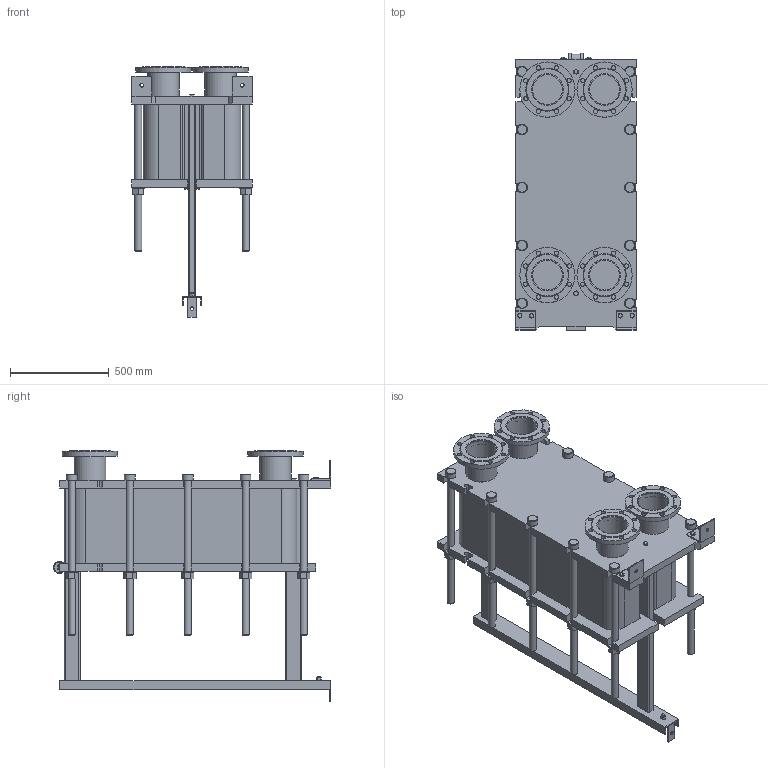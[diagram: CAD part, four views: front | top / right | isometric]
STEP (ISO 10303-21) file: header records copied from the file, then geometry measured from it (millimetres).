
FILE_DESCRIPTION(/* description */ (''),/* implementation_level */ '2;1');
FILE_NAME(/* name */ 'C:\Users\zhuro\Desktop\ENCO\TO\ЭН-041\ЭН-0,5-041-111-1.stp',/* time_stamp */ '2022-06-06T10:58:58+03:00',/* author */ ('zhuro'),/* organization */ (''),/* preprocessor_version */ 'ST-DEVELOPER v18.1',/* originating_system */ 'Autodesk Inventor 2022',/* authorisation */ '');
FILE_SCHEMA (('AUTOMOTIVE_DESIGN { 1 0 10303 214 3 1 1 }'));
Length unit declared in the file: millimetre
Products named in the file (1): ЭН-0,5-041-111-1
Bounding box: 610 x 1406.5 x 1272.5 mm (x, y, z)
Volume: 296631506 mm3; surface area: 9267052.1 mm2
Topology: 52 solids, 52 shells, 711 faces, 1696 edges, 1094 vertices
Faces by surface type: plane 487, cylinder 177, cone 41, torus 6
Full cylindrical faces by diameter (mm): 8 x4, 10 x2, 16 x8, 18 x3, 22 x32, 36 x24, 50 x1, 54 x10, 60 x12, 151 x4, 161 x8, 280 x4
Entity records: 22667 total; most frequent: CARTESIAN_POINT 5230, DIRECTION 3644, ORIENTED_EDGE 3392, EDGE_CURVE 1696, AXIS2_PLACEMENT_3D 1272, LINE 1100, VECTOR 1100, VERTEX_POINT 1094
